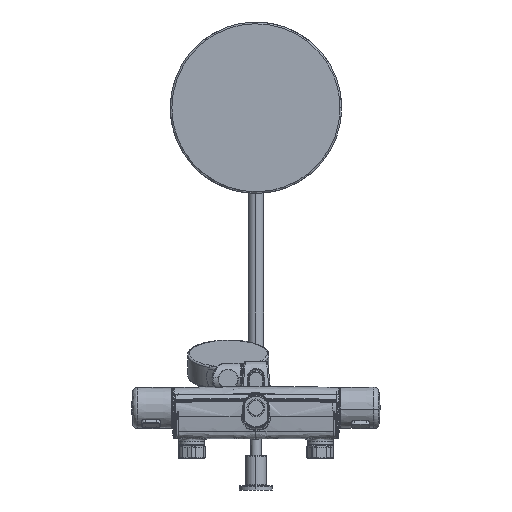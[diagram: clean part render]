
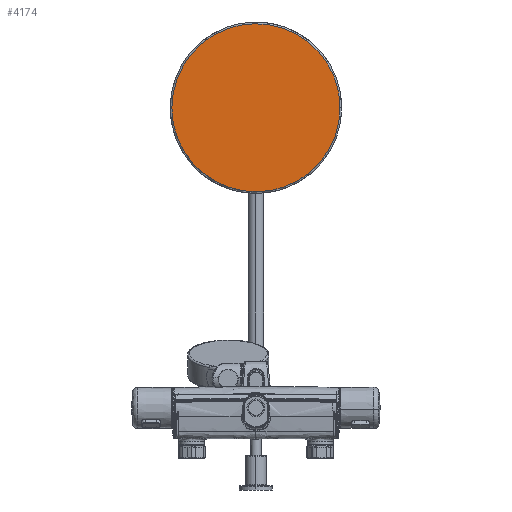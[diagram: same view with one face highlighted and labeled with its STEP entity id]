
A CAD part, front view. The second image highlights one B-rep face of the part: STEP entity #4174.
In plain terms, the highlighted planar face has unit normal (0, -1, 0).
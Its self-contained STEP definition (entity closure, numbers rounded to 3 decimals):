
#1092 = CARTESIAN_POINT ( 'NONE',  ( 98., 984.9, 350. ) ) ;
#1956 = CARTESIAN_POINT ( 'NONE',  ( -59.779, 984.9, 427.921 ) ) ;
#2166 = CARTESIAN_POINT ( 'NONE',  ( 49.113, 984.9, 435.048 ) ) ;
#3060 = CARTESIAN_POINT ( 'NONE',  ( 64.761, 984.9, 276.168 ) ) ;
#3470 = CARTESIAN_POINT ( 'NONE',  ( -88.086, 984.9, 306.571 ) ) ;
#3681 = CARTESIAN_POINT ( 'NONE',  ( 12.828, 984.9, 252.632 ) ) ;
#4030 = CARTESIAN_POINT ( 'NONE',  ( 0., 984.9, 350. ) ) ;
#4174 = ADVANCED_FACE ( 'NONE', ( #34707 ), #18783, .F. ) ;
#6515 = CARTESIAN_POINT ( 'NONE',  ( -85.048, 984.9, 399.113 ) ) ;
#7811 = B_SPLINE_CURVE_WITH_KNOTS ( 'NONE', 3,
 ( #41804, #8433, #60642, #17407, #27705, #55658, #41388, #7819, #12819, #3060, #27310, #40971, #41188, #13030, #32055, #3681, #13439, #36830, #8231, #12628, #45755, #41596, #50506, #31656, #31861, #51326, #37037, #46372, #3470, #17624, #18035, #17821, #51132, #46582 ),
 .UNSPECIFIED., .F., .F.,
 ( 4, 2, 2, 2, 2, 2, 2, 2, 2, 2, 2, 2, 2, 2, 2, 2, 4 ),
 ( 0., 0.031, 0.063, 0.094, 0.125, 0.156, 0.188, 0.219, 0.25, 0.281, 0.313, 0.344, 0.375, 0.406, 0.438, 0.469, 0.5 ),
 .UNSPECIFIED. ) ;
#7819 = CARTESIAN_POINT ( 'NONE',  ( 77.921, 984.9, 290.221 ) ) ;
#8231 = CARTESIAN_POINT ( 'NONE',  ( -12.828, 984.9, 252.632 ) ) ;
#8433 = CARTESIAN_POINT ( 'NONE',  ( 98., 984.9, 343.586 ) ) ;
#10284 = CARTESIAN_POINT ( 'NONE',  ( -98., 984.9, 356.414 ) ) ;
#10695 = CARTESIAN_POINT ( 'NONE',  ( -98., 984.9, 350. ) ) ;
#11118 = CARTESIAN_POINT ( 'NONE',  ( 85.048, 984.9, 399.113 ) ) ;
#11322 = CARTESIAN_POINT ( 'NONE',  ( -12.828, 984.9, 447.368 ) ) ;
#11725 = CARTESIAN_POINT ( 'NONE',  ( 73.832, 984.9, 414.761 ) ) ;
#12628 = CARTESIAN_POINT ( 'NONE',  ( -25.41, 984.9, 255.134 ) ) ;
#12819 = CARTESIAN_POINT ( 'NONE',  ( 73.832, 984.9, 285.239 ) ) ;
#13030 = CARTESIAN_POINT ( 'NONE',  ( 31.577, 984.9, 257.005 ) ) ;
#13439 = CARTESIAN_POINT ( 'NONE',  ( 6.414, 984.9, 252. ) ) ;
#15696 = CARTESIAN_POINT ( 'NONE',  ( 31.577, 984.9, 442.995 ) ) ;
#15905 = CARTESIAN_POINT ( 'NONE',  ( -43.429, 984.9, 438.086 ) ) ;
#16120 = CARTESIAN_POINT ( 'NONE',  ( 94.866, 984.9, 375.41 ) ) ;
#16325 = CARTESIAN_POINT ( 'NONE',  ( 92.995, 984.9, 381.577 ) ) ;
#16789 = B_SPLINE_CURVE_WITH_KNOTS ( 'NONE', 3,
 ( #10695, #10284, #35314, #39284, #48791, #58901, #6515, #25803, #34902, #58292, #1956, #39692, #15905, #40096, #30342, #11322, #53547, #44448, #25600, #49202, #15696, #30554, #2166, #44030, #58082, #11725, #53954, #11118, #44650, #16325, #16120, #58489, #20872, #44853 ),
 .UNSPECIFIED., .F., .F.,
 ( 4, 2, 2, 2, 2, 2, 2, 2, 2, 2, 2, 2, 2, 2, 2, 2, 4 ),
 ( 0.5, 0.531, 0.563, 0.594, 0.625, 0.656, 0.688, 0.719, 0.75, 0.781, 0.813, 0.844, 0.875, 0.906, 0.938, 0.969, 1. ),
 .UNSPECIFIED. ) ;
#17395 = CARTESIAN_POINT ( 'NONE',  ( -98., 984.9, 350. ) ) ;
#17407 = CARTESIAN_POINT ( 'NONE',  ( 94.866, 984.9, 324.59 ) ) ;
#17624 = CARTESIAN_POINT ( 'NONE',  ( -92.995, 984.9, 318.423 ) ) ;
#17821 = CARTESIAN_POINT ( 'NONE',  ( -97.368, 984.9, 337.172 ) ) ;
#18035 = CARTESIAN_POINT ( 'NONE',  ( -94.866, 984.9, 324.59 ) ) ;
#18783 = PLANE ( 'NONE',  #21727 ) ;
#20872 = CARTESIAN_POINT ( 'NONE',  ( 98., 984.9, 356.414 ) ) ;
#21727 = AXIS2_PLACEMENT_3D ( 'NONE', #4030, #32823, #37181 ) ;
#21790 = EDGE_LOOP ( 'NONE', ( #38933, #23610 ) ) ;
#23610 = ORIENTED_EDGE ( 'NONE', *, *, #35294, .F. ) ;
#24034 = VERTEX_POINT ( 'NONE', #1092 ) ;
#25600 = CARTESIAN_POINT ( 'NONE',  ( 12.828, 984.9, 447.368 ) ) ;
#25803 = CARTESIAN_POINT ( 'NONE',  ( -77.921, 984.9, 409.779 ) ) ;
#27310 = CARTESIAN_POINT ( 'NONE',  ( 59.779, 984.9, 272.079 ) ) ;
#27705 = CARTESIAN_POINT ( 'NONE',  ( 92.995, 984.9, 318.423 ) ) ;
#30342 = CARTESIAN_POINT ( 'NONE',  ( -25.41, 984.9, 444.866 ) ) ;
#30554 = CARTESIAN_POINT ( 'NONE',  ( 43.429, 984.9, 438.086 ) ) ;
#31656 = CARTESIAN_POINT ( 'NONE',  ( -59.779, 984.9, 272.079 ) ) ;
#31861 = CARTESIAN_POINT ( 'NONE',  ( -64.761, 984.9, 276.168 ) ) ;
#32055 = CARTESIAN_POINT ( 'NONE',  ( 25.41, 984.9, 255.134 ) ) ;
#32823 = DIRECTION ( 'NONE',  ( 0., 1., 0. ) ) ;
#34707 = FACE_OUTER_BOUND ( 'NONE', #21790, .T. ) ;
#34902 = CARTESIAN_POINT ( 'NONE',  ( -73.832, 984.9, 414.761 ) ) ;
#35294 = EDGE_CURVE ( 'NONE', #50067, #24034, #16789, .T. ) ;
#35314 = CARTESIAN_POINT ( 'NONE',  ( -97.368, 984.9, 362.828 ) ) ;
#36830 = CARTESIAN_POINT ( 'NONE',  ( -6.414, 984.9, 252. ) ) ;
#37037 = CARTESIAN_POINT ( 'NONE',  ( -77.921, 984.9, 290.221 ) ) ;
#37181 = DIRECTION ( 'NONE',  ( 1., 0., 0. ) ) ;
#38933 = ORIENTED_EDGE ( 'NONE', *, *, #52797, .F. ) ;
#39284 = CARTESIAN_POINT ( 'NONE',  ( -94.866, 984.9, 375.41 ) ) ;
#39692 = CARTESIAN_POINT ( 'NONE',  ( -49.113, 984.9, 435.048 ) ) ;
#40096 = CARTESIAN_POINT ( 'NONE',  ( -31.577, 984.9, 442.995 ) ) ;
#40971 = CARTESIAN_POINT ( 'NONE',  ( 49.113, 984.9, 264.952 ) ) ;
#41188 = CARTESIAN_POINT ( 'NONE',  ( 43.429, 984.9, 261.914 ) ) ;
#41388 = CARTESIAN_POINT ( 'NONE',  ( 85.048, 984.9, 300.887 ) ) ;
#41596 = CARTESIAN_POINT ( 'NONE',  ( -43.429, 984.9, 261.914 ) ) ;
#41804 = CARTESIAN_POINT ( 'NONE',  ( 98., 984.9, 350. ) ) ;
#44030 = CARTESIAN_POINT ( 'NONE',  ( 59.779, 984.9, 427.921 ) ) ;
#44448 = CARTESIAN_POINT ( 'NONE',  ( 6.414, 984.9, 448. ) ) ;
#44650 = CARTESIAN_POINT ( 'NONE',  ( 88.086, 984.9, 393.429 ) ) ;
#44853 = CARTESIAN_POINT ( 'NONE',  ( 98., 984.9, 350. ) ) ;
#45755 = CARTESIAN_POINT ( 'NONE',  ( -31.577, 984.9, 257.005 ) ) ;
#46372 = CARTESIAN_POINT ( 'NONE',  ( -85.048, 984.9, 300.887 ) ) ;
#46582 = CARTESIAN_POINT ( 'NONE',  ( -98., 984.9, 350. ) ) ;
#48791 = CARTESIAN_POINT ( 'NONE',  ( -92.995, 984.9, 381.577 ) ) ;
#49202 = CARTESIAN_POINT ( 'NONE',  ( 25.41, 984.9, 444.866 ) ) ;
#50067 = VERTEX_POINT ( 'NONE', #17395 ) ;
#50506 = CARTESIAN_POINT ( 'NONE',  ( -49.113, 984.9, 264.952 ) ) ;
#51132 = CARTESIAN_POINT ( 'NONE',  ( -98., 984.9, 343.586 ) ) ;
#51326 = CARTESIAN_POINT ( 'NONE',  ( -73.832, 984.9, 285.239 ) ) ;
#52797 = EDGE_CURVE ( 'NONE', #24034, #50067, #7811, .T. ) ;
#53547 = CARTESIAN_POINT ( 'NONE',  ( -6.414, 984.9, 448. ) ) ;
#53954 = CARTESIAN_POINT ( 'NONE',  ( 77.921, 984.9, 409.779 ) ) ;
#55658 = CARTESIAN_POINT ( 'NONE',  ( 88.086, 984.9, 306.571 ) ) ;
#58082 = CARTESIAN_POINT ( 'NONE',  ( 64.761, 984.9, 423.832 ) ) ;
#58292 = CARTESIAN_POINT ( 'NONE',  ( -64.761, 984.9, 423.832 ) ) ;
#58489 = CARTESIAN_POINT ( 'NONE',  ( 97.368, 984.9, 362.828 ) ) ;
#58901 = CARTESIAN_POINT ( 'NONE',  ( -88.086, 984.9, 393.429 ) ) ;
#60642 = CARTESIAN_POINT ( 'NONE',  ( 97.368, 984.9, 337.172 ) ) ;
